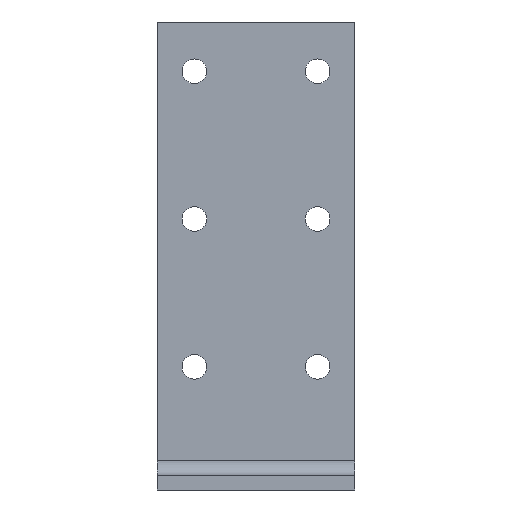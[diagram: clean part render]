
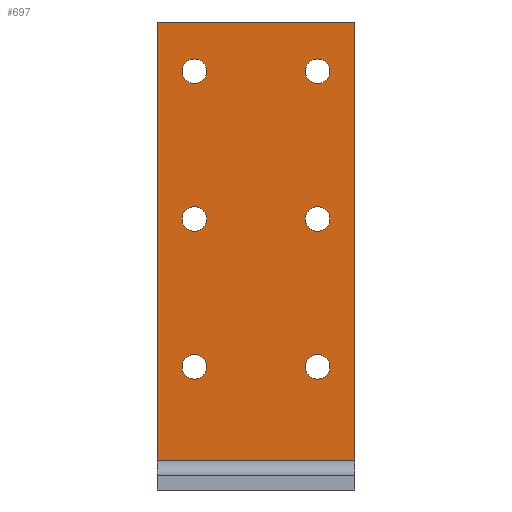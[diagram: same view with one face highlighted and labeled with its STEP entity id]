
A CAD part, front view. The second image highlights one B-rep face of the part: STEP entity #697.
In plain terms, the highlighted planar face has unit normal (0, -1, 0).
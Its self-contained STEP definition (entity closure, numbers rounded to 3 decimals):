
#2 = DIRECTION ( 'NONE',  ( 0., -1., 0. ) ) ;
#5 = VERTEX_POINT ( 'NONE', #1328 ) ;
#20 = CIRCLE ( 'NONE', #1049, 2.5 ) ;
#27 = DIRECTION ( 'NONE',  ( 0., 0., -1. ) ) ;
#31 = CARTESIAN_POINT ( 'NONE',  ( -20., 57., 47.5 ) ) ;
#41 = FACE_OUTER_BOUND ( 'NONE', #761, .T. ) ;
#47 = ORIENTED_EDGE ( 'NONE', *, *, #1246, .T. ) ;
#70 = DIRECTION ( 'NONE',  ( 0., -1., 0. ) ) ;
#74 = DIRECTION ( 'NONE',  ( 0., 0., -1. ) ) ;
#86 = CARTESIAN_POINT ( 'NONE',  ( 20., 57., -41.5 ) ) ;
#104 = ORIENTED_EDGE ( 'NONE', *, *, #990, .F. ) ;
#115 = ORIENTED_EDGE ( 'NONE', *, *, #1557, .F. ) ;
#117 = DIRECTION ( 'NONE',  ( 0., 0., -1. ) ) ;
#128 = CARTESIAN_POINT ( 'NONE',  ( 0., 57., -41.5 ) ) ;
#134 = CIRCLE ( 'NONE', #566, 2.5 ) ;
#155 = CARTESIAN_POINT ( 'NONE',  ( -12.5, 57., 40. ) ) ;
#163 = AXIS2_PLACEMENT_3D ( 'NONE', #1550, #839, #117 ) ;
#184 = VERTEX_POINT ( 'NONE', #645 ) ;
#187 = VECTOR ( 'NONE', #965, 1000. ) ;
#213 = ORIENTED_EDGE ( 'NONE', *, *, #787, .F. ) ;
#216 = CARTESIAN_POINT ( 'NONE',  ( 12.5, 57., 37.5 ) ) ;
#218 = EDGE_LOOP ( 'NONE', ( #1482, #104 ) ) ;
#221 = FACE_BOUND ( 'NONE', #358, .T. ) ;
#223 = EDGE_CURVE ( 'NONE', #5, #282, #767, .T. ) ;
#224 = DIRECTION ( 'NONE',  ( 0., -1., 0. ) ) ;
#248 = CARTESIAN_POINT ( 'NONE',  ( 12.5, 57., 7.5 ) ) ;
#253 = EDGE_LOOP ( 'NONE', ( #213, #823 ) ) ;
#282 = VERTEX_POINT ( 'NONE', #1006 ) ;
#323 = DIRECTION ( 'NONE',  ( 0., -1., 0. ) ) ;
#334 = FACE_BOUND ( 'NONE', #361, .T. ) ;
#339 = ORIENTED_EDGE ( 'NONE', *, *, #402, .T. ) ;
#355 = FACE_BOUND ( 'NONE', #218, .T. ) ;
#358 = EDGE_LOOP ( 'NONE', ( #1137, #772 ) ) ;
#361 = EDGE_LOOP ( 'NONE', ( #383, #1481 ) ) ;
#368 = AXIS2_PLACEMENT_3D ( 'NONE', #216, #2, #948 ) ;
#370 = VECTOR ( 'NONE', #1356, 1000. ) ;
#383 = ORIENTED_EDGE ( 'NONE', *, *, #776, .F. ) ;
#385 = CARTESIAN_POINT ( 'NONE',  ( -20., 57., 0. ) ) ;
#390 = VERTEX_POINT ( 'NONE', #1483 ) ;
#393 = DIRECTION ( 'NONE',  ( 0., 0., -1. ) ) ;
#397 = VERTEX_POINT ( 'NONE', #155 ) ;
#398 = DIRECTION ( 'NONE',  ( 0., -1., 0. ) ) ;
#402 = EDGE_CURVE ( 'NONE', #471, #586, #1543, .T. ) ;
#405 = CARTESIAN_POINT ( 'NONE',  ( -12.5, 57., 10. ) ) ;
#423 = AXIS2_PLACEMENT_3D ( 'NONE', #1553, #473, #1450 ) ;
#425 = CARTESIAN_POINT ( 'NONE',  ( 12.5, 57., 37.5 ) ) ;
#439 = CARTESIAN_POINT ( 'NONE',  ( 20., 57., 0. ) ) ;
#440 = PLANE ( 'NONE',  #837 ) ;
#449 = LINE ( 'NONE', #439, #1131 ) ;
#468 = LINE ( 'NONE', #128, #187 ) ;
#471 = VERTEX_POINT ( 'NONE', #31 ) ;
#472 = VERTEX_POINT ( 'NONE', #1360 ) ;
#473 = DIRECTION ( 'NONE',  ( 0., -1., 0. ) ) ;
#491 = CIRCLE ( 'NONE', #773, 2.5 ) ;
#516 = EDGE_CURVE ( 'NONE', #927, #873, #20, .T. ) ;
#536 = CARTESIAN_POINT ( 'NONE',  ( 12.5, 57., -22.5 ) ) ;
#541 = ORIENTED_EDGE ( 'NONE', *, *, #964, .F. ) ;
#542 = EDGE_LOOP ( 'NONE', ( #115, #940 ) ) ;
#554 = ORIENTED_EDGE ( 'NONE', *, *, #756, .F. ) ;
#555 = CARTESIAN_POINT ( 'NONE',  ( -20., 57., -41.5 ) ) ;
#566 = AXIS2_PLACEMENT_3D ( 'NONE', #1077, #224, #1190 ) ;
#578 = VERTEX_POINT ( 'NONE', #405 ) ;
#582 = CIRCLE ( 'NONE', #368, 2.5 ) ;
#586 = VERTEX_POINT ( 'NONE', #555 ) ;
#590 = CARTESIAN_POINT ( 'NONE',  ( 12.5, 57., 7.5 ) ) ;
#611 = EDGE_CURVE ( 'NONE', #873, #927, #765, .T. ) ;
#645 = CARTESIAN_POINT ( 'NONE',  ( 20., 57., 47.5 ) ) ;
#646 = CARTESIAN_POINT ( 'NONE',  ( -12.5, 57., 37.5 ) ) ;
#664 = CARTESIAN_POINT ( 'NONE',  ( -12.5, 57., 37.5 ) ) ;
#685 = DIRECTION ( 'NONE',  ( 0., 0., -1. ) ) ;
#697 = ADVANCED_FACE ( 'NONE', ( #221, #1473, #1243, #334, #355, #1282, #41 ), #440, .T. ) ;
#710 = DIRECTION ( 'NONE',  ( 0., -1., 0. ) ) ;
#713 = VERTEX_POINT ( 'NONE', #1426 ) ;
#722 = ORIENTED_EDGE ( 'NONE', *, *, #223, .F. ) ;
#741 = DIRECTION ( 'NONE',  ( 0., -1., 0. ) ) ;
#756 = EDGE_CURVE ( 'NONE', #282, #5, #582, .T. ) ;
#761 = EDGE_LOOP ( 'NONE', ( #47, #339, #541, #1266 ) ) ;
#765 = CIRCLE ( 'NONE', #1490, 2.5 ) ;
#767 = CIRCLE ( 'NONE', #1264, 2.5 ) ;
#772 = ORIENTED_EDGE ( 'NONE', *, *, #611, .F. ) ;
#773 = AXIS2_PLACEMENT_3D ( 'NONE', #1439, #1200, #817 ) ;
#776 = EDGE_CURVE ( 'NONE', #390, #578, #134, .T. ) ;
#787 = EDGE_CURVE ( 'NONE', #1045, #1020, #491, .T. ) ;
#790 = DIRECTION ( 'NONE',  ( 0., 0., -1. ) ) ;
#795 = DIRECTION ( 'NONE',  ( 0., 0., -1. ) ) ;
#816 = EDGE_CURVE ( 'NONE', #578, #390, #1380, .T. ) ;
#817 = DIRECTION ( 'NONE',  ( 0., 0., -1. ) ) ;
#820 = CARTESIAN_POINT ( 'NONE',  ( 12.5, 57., -20. ) ) ;
#823 = ORIENTED_EDGE ( 'NONE', *, *, #1452, .F. ) ;
#837 = AXIS2_PLACEMENT_3D ( 'NONE', #1305, #323, #795 ) ;
#838 = EDGE_CURVE ( 'NONE', #1394, #713, #1188, .T. ) ;
#839 = DIRECTION ( 'NONE',  ( 0., -1., 0. ) ) ;
#855 = AXIS2_PLACEMENT_3D ( 'NONE', #248, #741, #27 ) ;
#873 = VERTEX_POINT ( 'NONE', #820 ) ;
#890 = AXIS2_PLACEMENT_3D ( 'NONE', #590, #710, #945 ) ;
#927 = VERTEX_POINT ( 'NONE', #984 ) ;
#940 = ORIENTED_EDGE ( 'NONE', *, *, #838, .F. ) ;
#945 = DIRECTION ( 'NONE',  ( 0., 0., -1. ) ) ;
#948 = DIRECTION ( 'NONE',  ( 0., 0., -1. ) ) ;
#964 = EDGE_CURVE ( 'NONE', #1390, #586, #468, .T. ) ;
#965 = DIRECTION ( 'NONE',  ( -1., 0., 0. ) ) ;
#972 = CARTESIAN_POINT ( 'NONE',  ( -12.5, 57., -20. ) ) ;
#984 = CARTESIAN_POINT ( 'NONE',  ( 12.5, 57., -25. ) ) ;
#990 = EDGE_CURVE ( 'NONE', #397, #472, #1073, .T. ) ;
#1006 = CARTESIAN_POINT ( 'NONE',  ( 12.5, 57., 40. ) ) ;
#1008 = CARTESIAN_POINT ( 'NONE',  ( 12.5, 57., -22.5 ) ) ;
#1020 = VERTEX_POINT ( 'NONE', #972 ) ;
#1023 = DIRECTION ( 'NONE',  ( 0., -1., 0. ) ) ;
#1040 = CARTESIAN_POINT ( 'NONE',  ( 20., 57., 47.5 ) ) ;
#1044 = CARTESIAN_POINT ( 'NONE',  ( 12.5, 57., 10. ) ) ;
#1045 = VERTEX_POINT ( 'NONE', #1353 ) ;
#1049 = AXIS2_PLACEMENT_3D ( 'NONE', #1008, #1023, #74 ) ;
#1073 = CIRCLE ( 'NONE', #1211, 2.5 ) ;
#1077 = CARTESIAN_POINT ( 'NONE',  ( -12.5, 57., 7.5 ) ) ;
#1086 = CIRCLE ( 'NONE', #855, 2.5 ) ;
#1131 = VECTOR ( 'NONE', #1273, 1000. ) ;
#1137 = ORIENTED_EDGE ( 'NONE', *, *, #516, .F. ) ;
#1164 = EDGE_CURVE ( 'NONE', #184, #1390, #449, .T. ) ;
#1188 = CIRCLE ( 'NONE', #890, 2.5 ) ;
#1190 = DIRECTION ( 'NONE',  ( 0., 0., -1. ) ) ;
#1200 = DIRECTION ( 'NONE',  ( 0., -1., 0. ) ) ;
#1211 = AXIS2_PLACEMENT_3D ( 'NONE', #646, #398, #393 ) ;
#1223 = LINE ( 'NONE', #1040, #1498 ) ;
#1224 = EDGE_CURVE ( 'NONE', #472, #397, #1304, .T. ) ;
#1230 = EDGE_LOOP ( 'NONE', ( #722, #554 ) ) ;
#1243 = FACE_BOUND ( 'NONE', #253, .T. ) ;
#1246 = EDGE_CURVE ( 'NONE', #184, #471, #1223, .T. ) ;
#1255 = DIRECTION ( 'NONE',  ( 0., -1., 0. ) ) ;
#1260 = DIRECTION ( 'NONE',  ( -1., 0., 0. ) ) ;
#1264 = AXIS2_PLACEMENT_3D ( 'NONE', #425, #1255, #1385 ) ;
#1266 = ORIENTED_EDGE ( 'NONE', *, *, #1164, .F. ) ;
#1273 = DIRECTION ( 'NONE',  ( 0., 0., -1. ) ) ;
#1277 = DIRECTION ( 'NONE',  ( 0., -1., 0. ) ) ;
#1282 = FACE_BOUND ( 'NONE', #1230, .T. ) ;
#1304 = CIRCLE ( 'NONE', #1485, 2.5 ) ;
#1305 = CARTESIAN_POINT ( 'NONE',  ( 20., 57., 47.5 ) ) ;
#1328 = CARTESIAN_POINT ( 'NONE',  ( 12.5, 57., 35. ) ) ;
#1353 = CARTESIAN_POINT ( 'NONE',  ( -12.5, 57., -25. ) ) ;
#1356 = DIRECTION ( 'NONE',  ( 0., 0., -1. ) ) ;
#1360 = CARTESIAN_POINT ( 'NONE',  ( -12.5, 57., 35. ) ) ;
#1376 = CIRCLE ( 'NONE', #423, 2.5 ) ;
#1380 = CIRCLE ( 'NONE', #163, 2.5 ) ;
#1385 = DIRECTION ( 'NONE',  ( 0., 0., -1. ) ) ;
#1390 = VERTEX_POINT ( 'NONE', #86 ) ;
#1394 = VERTEX_POINT ( 'NONE', #1044 ) ;
#1426 = CARTESIAN_POINT ( 'NONE',  ( 12.5, 57., 5. ) ) ;
#1439 = CARTESIAN_POINT ( 'NONE',  ( -12.5, 57., -22.5 ) ) ;
#1450 = DIRECTION ( 'NONE',  ( 0., 0., -1. ) ) ;
#1452 = EDGE_CURVE ( 'NONE', #1020, #1045, #1376, .T. ) ;
#1473 = FACE_BOUND ( 'NONE', #542, .T. ) ;
#1481 = ORIENTED_EDGE ( 'NONE', *, *, #816, .F. ) ;
#1482 = ORIENTED_EDGE ( 'NONE', *, *, #1224, .F. ) ;
#1483 = CARTESIAN_POINT ( 'NONE',  ( -12.5, 57., 5. ) ) ;
#1485 = AXIS2_PLACEMENT_3D ( 'NONE', #664, #1277, #790 ) ;
#1490 = AXIS2_PLACEMENT_3D ( 'NONE', #536, #70, #685 ) ;
#1498 = VECTOR ( 'NONE', #1260, 1000. ) ;
#1543 = LINE ( 'NONE', #385, #370 ) ;
#1550 = CARTESIAN_POINT ( 'NONE',  ( -12.5, 57., 7.5 ) ) ;
#1553 = CARTESIAN_POINT ( 'NONE',  ( -12.5, 57., -22.5 ) ) ;
#1557 = EDGE_CURVE ( 'NONE', #713, #1394, #1086, .T. ) ;
